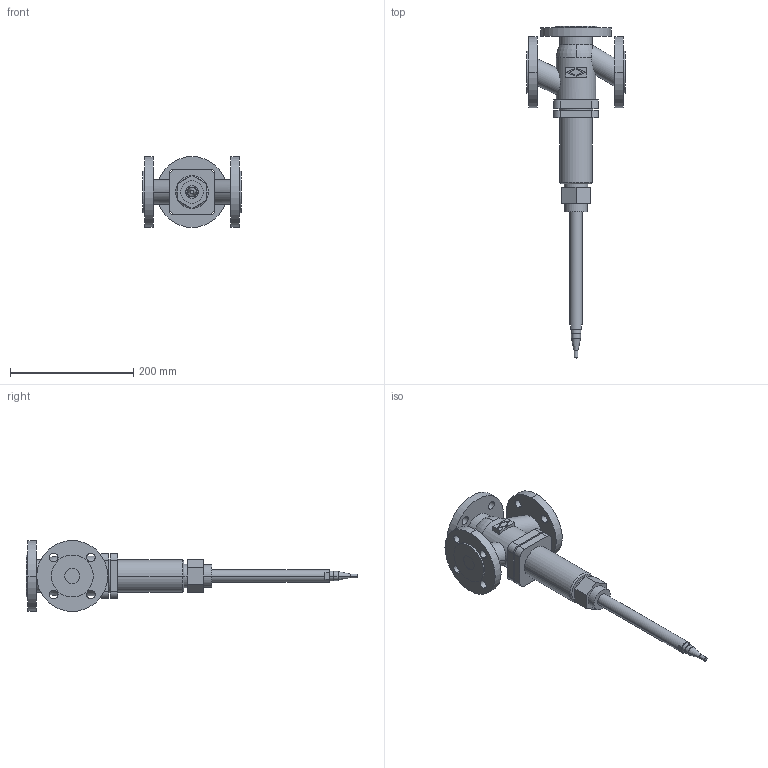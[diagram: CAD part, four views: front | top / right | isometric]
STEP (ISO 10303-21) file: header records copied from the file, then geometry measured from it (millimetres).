
FILE_DESCRIPTION(('CoCreate Modeling STEP Export'),'2;1');
FILE_NAME('c000004728.stp','2011-09-23T12:30:54',(''),(''),'CoCreate Modeling STEP processor for AP214 (Solid Model)','CoCreate Modeling 17.0 01-Apr-2010 (C) Parametric Technology GmbH','');
FILE_SCHEMA(('AUTOMOTIVE_DESIGN { 1 0 10303 214 1 1 1 1 }'));
Length unit declared in the file: millimetre
Products named in the file (1): 1
Bounding box: 160 x 538.44 x 115 mm (x, y, z)
Volume: 1359635.7 mm3; surface area: 165674.7 mm2
Topology: 1 solids, 1 shells, 138 faces, 337 edges, 223 vertices
Faces by surface type: cylinder 72, plane 60, torus 4, cone 2
Entity records: 4914 total; most frequent: CARTESIAN_POINT 760, ORIENTED_EDGE 674, DIRECTION 556, EDGE_CURVE 337, VERTEX_POINT 223, AXIS2_PLACEMENT_3D 194, EDGE_LOOP 184, VECTOR 168
